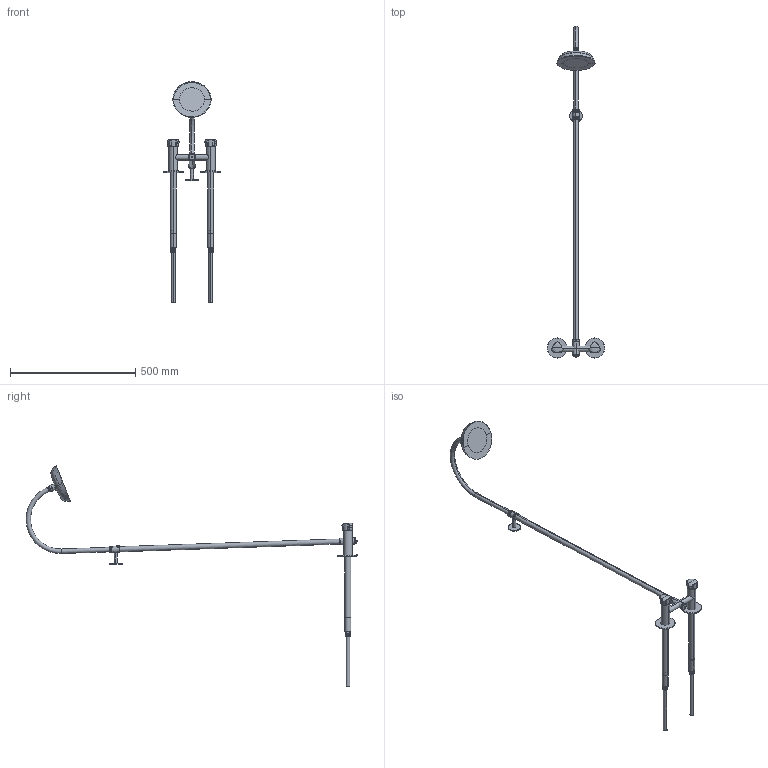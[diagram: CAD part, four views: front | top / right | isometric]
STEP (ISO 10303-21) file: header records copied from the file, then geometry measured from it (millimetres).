
FILE_DESCRIPTION((''),'2;1');
FILE_NAME('89780--25_SW0002','2026-09-09T12:51:58',('clra1'),(''),'CREO PARAMETRIC BY PTC INC, 2022244','CREO PARAMETRIC BY PTC INC, 2022244','');
FILE_SCHEMA(('CONFIG_CONTROL_DESIGN'));
Length unit declared in the file: millimetre
Products named in the file (1): 89780--25_SW0002
Bounding box: 230 x 1325.4 x 880.61 mm (x, y, z)
Surface area: 321365.9 mm2 (no closed solid volume)
Topology: 0 solids, 50 shells, 318 faces, 828 edges, 544 vertices
Faces by surface type: cylinder 100, bspline 87, cone 59, plane 38, torus 24, revolution 10
Entity records: 22366 total; most frequent: CARTESIAN_POINT 15455, ORIENTED_EDGE 1436, DIRECTION 1265, EDGE_CURVE 824, VERTEX_POINT 544, AXIS2_PLACEMENT_3D 537, B_SPLINE_CURVE_WITH_KNOTS 337, EDGE_LOOP 318
